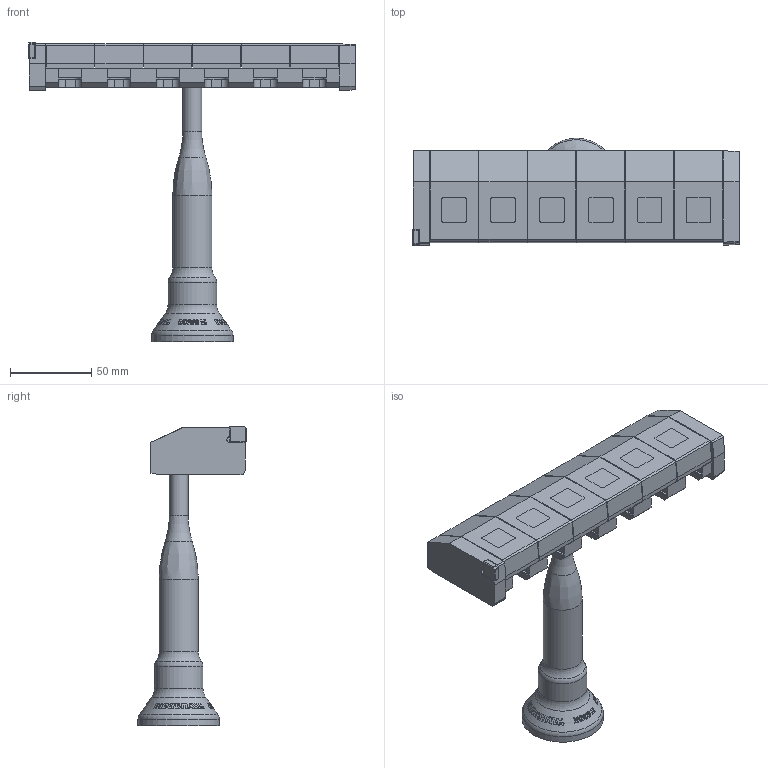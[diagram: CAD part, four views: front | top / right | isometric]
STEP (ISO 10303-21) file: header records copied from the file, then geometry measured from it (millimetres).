
FILE_DESCRIPTION(/* description */ (''),/* implementation_level */ '2;1');
FILE_NAME(/* name */ 'LA-3007-2065#-B.stp',/* time_stamp */ '2012-09-04T15:04:39+01:00',/* author */ (''),/* organization */ (''),/* preprocessor_version */ 'ST-DEVELOPER v11',/* originating_system */ 'SIEMENS PLM Software NX 7.5',/* authorisation */ '');
FILE_SCHEMA (('AUTOMOTIVE_DESIGN { 1 0 10303 214 1 1 1 1 }'));
Length unit declared in the file: millimetre
Products named in the file (1): rt133622tjti
Bounding box: 200.4 x 66.35 x 183.93 mm (x, y, z)
Volume: 345744.5 mm3; surface area: 79042.8 mm2
Topology: 7 solids, 7 shells, 280 faces, 1022 edges, 777 vertices
Faces by surface type: plane 189, cylinder 44, cone 30, sphere 10, torus 5, bspline 2
Full cylindrical faces by diameter (mm): 11.5 x1, 24 x1, 29.8 x1, 50 x1
Entity records: 13380 total; most frequent: CARTESIAN_POINT 3101, ORIENTED_EDGE 1984, DIRECTION 1338, EDGE_CURVE 992, VERTEX_POINT 769, LINE 548, VECTOR 548, AXIS2_PLACEMENT_3D 395
